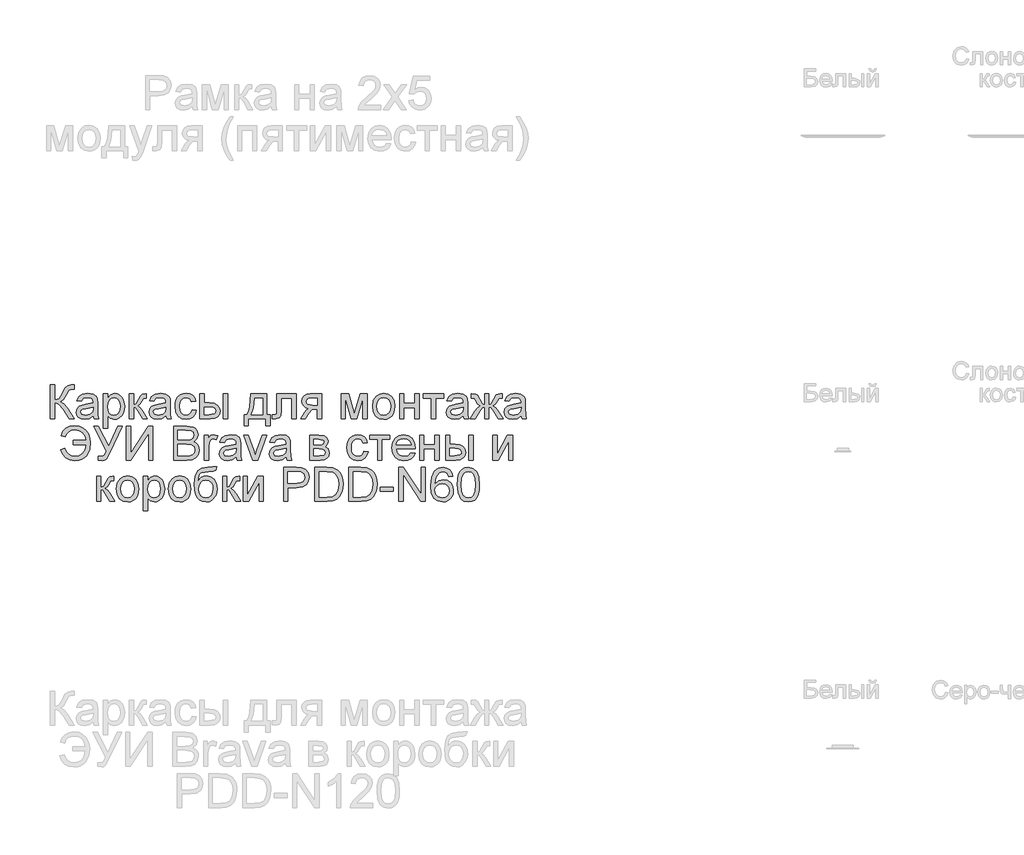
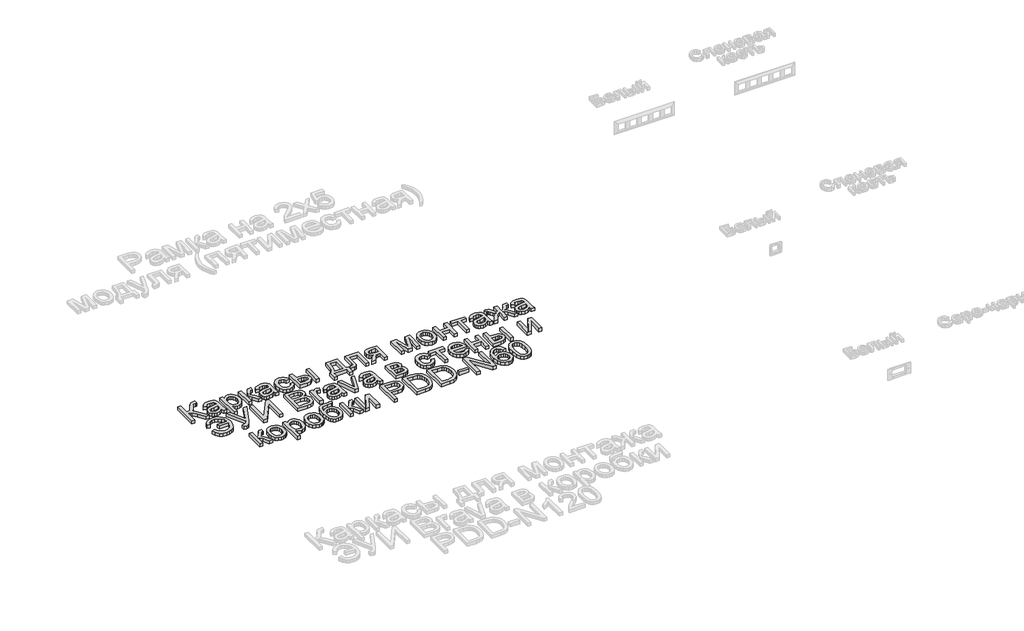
# One storey, part 16 of 47: 1 proxy.
"""IFC4 building model written with IfcOpenShell, lengths in millimetres."""

from ifc_helpers import new_model, si_unit, origin, origin_with_axes, place, context, project, spatial, polyline, outline, extrude, element, save

model = new_model("IFC4")

# Units and contexts
model_context = context("Model", 3, world=origin())
ifc_project = project(units=[si_unit("LENGTHUNIT", "METRE", prefix="MILLI")], contexts=[model_context])

# Site, building, storey
site = spatial("IfcSite", under=ifc_project)
building = spatial("IfcBuilding", under=site)
storey = spatial("IfcBuildingStorey", under=building, Name="Этаж 01", Elevation=0.0)

# Proxy
placement = place(None, origin())
element("IfcBuildingElementProxy", 1, Name="150 мм Arial", ObjectType="150 мм Arial", at=placement, inside=storey, context=model_context, shape_type="SweptSolid", body=[
    extrude(outline(polyline([(-3509.4486842, -3461.4665674), (-3490.613126, -3461.4665674), (-3490.613126, -3527.391021), (-3477.8614163, -3526.1448207), (-3469.5518818, -3522.4062199), (-3454.8549961, -3497.1879091), (-3444.4623297, -3476.1266649), (-3432.6901059, -3465.6972104), (-3415.8595046, -3461.4665674), (-3403.4986695, -3461.6872966), (-3403.4986695, -3480.5228548), (-3407.6557361, -3480.4124902), (-3411.8128026, -3480.3021256), (-3426.5280824, -3484.8270741), (-3437.7116951, -3504.2144553), (-3451.0474174, -3527.8324793), (-3464.0520459, -3535.6315776), (-3449.5115101, -3544.1480458), (-3435.1733093, -3561.8983521), (-3403.4986695, -3612.1510326), (-3425.3508601, -3612.1510326), (-3452.1326693, -3569.6974504), (-3470.9866216, -3547.5325602), (-3479.6916293, -3543.0214072), (-3490.613126, -3541.5176896), (-3490.613126, -3612.1510326), (-3509.4486842, -3612.1510326), (-3509.4486842, -3461.4665674)])), origin_with_axes(), (0.0, 0.0, 1.0), 20.0),
    extrude(outline(polyline([(-3318.7386579, -3598.024364), (-3337.0039989, -3610.7898693), (-3357.1823263, -3614.5054774), (-3372.9230772, -3612.2705943), (-3384.5343527, -3605.5659449), (-3391.694256, -3595.3848107), (-3394.0808905, -3582.720473), (-3390.4756469, -3567.8212522), (-3381.0026855, -3557.0055216), (-3367.814116, -3550.825104), (-3351.5169436, -3547.9924127), (-3318.8490225, -3541.5176896), (-3318.7386579, -3537.3238348), (-3320.0354419, -3528.9177312), (-3323.925794, -3523.4178954), (-3332.6262032, -3519.3344053), (-3344.7479149, -3517.9732419), (-3363.8042023, -3521.5968795), (-3372.8908875, -3534.4543553), (-3391.7264457, -3532.0999105), (-3383.5778595, -3513.7058107), (-3367.1703225, -3502.9268683), (-3342.3198937, -3499.1376837), (-3319.4928159, -3502.4854099), (-3306.598552, -3510.8915135), (-3300.8228047, -3523.6754128), (-3299.9030997, -3540.1565262), (-3299.9030997, -3563.5906093), (-3298.9466065, -3596.3137127), (-3295.1942102, -3612.1510326), (-3314.0297683, -3612.1510326), (-3318.7386579, -3598.024364)]), holes=[polyline([(-3318.7386579, -3560.3532477), (-3349.1257107, -3566.128995), (-3365.3309125, -3569.1824156), (-3372.6701583, -3574.1488225), (-3375.2453323, -3581.3960978), (-3369.6351319, -3591.5864291), (-3353.1724126, -3595.6699193), (-3334.1161253, -3591.1633648), (-3321.8288666, -3580.2556637), (-3318.8490225, -3565.6875366), (-3318.7386579, -3560.3532477)])]), origin_with_axes(), (0.0, 0.0, 1.0), 20.0),
    extrude(outline(polyline([(-3274.0042072, -3654.5310385), (-3274.0042072, -3501.4921285), (-3255.1686491, -3501.4921285), (-3255.1686491, -3519.9598046), (-3242.1456265, -3504.343214), (-3224.5608671, -3499.1376837), (-3211.822953, -3500.9586996), (-3200.6853256, -3506.4217472), (-3191.6170344, -3515.1957328), (-3185.087129, -3526.9495626), (-3179.8264165, -3555.975452), (-3181.31174, -3572.0840848), (-3185.7677107, -3586.4912635), (-3193.0517742, -3598.4658224), (-3203.0213763, -3607.2765962), (-3214.6326517, -3612.6982571), (-3226.8417355, -3614.5054774), (-3243.2308783, -3609.6678292), (-3255.1686491, -3597.4357528), (-3255.1686491, -3654.5310385), (-3274.0042072, -3654.5310385)]), holes=[polyline([(-3255.1686491, -3557.7044974), (-3253.1315025, -3574.5902809), (-3247.0200629, -3586.399293), (-3238.0023555, -3593.3522627), (-3227.2464057, -3595.6699193), (-3216.3157119, -3593.2694892), (-3207.0680782, -3586.0681992), (-3200.7635005, -3573.8269258), (-3198.6619746, -3556.3065458), (-3200.7129168, -3539.5127327), (-3206.8657431, -3527.5381737), (-3215.869655, -3520.3644748), (-3226.4738535, -3517.9732419), (-3237.1194387, -3520.5162262), (-3246.4682399, -3528.145179), (-3252.9935468, -3540.6209772), (-3255.1686491, -3557.7044974)])]), origin_with_axes(), (0.0, 0.0, 1.0), 20.0),
    extrude(outline(polyline([(-3158.6364136, -3501.4921285), (-3139.8008554, -3501.4921285), (-3139.8008554, -3548.5810239), (-3127.182503, -3545.1965095), (-3116.8450189, -3525.4780346), (-3108.2549743, -3508.4634923), (-3100.6766052, -3502.9268683), (-3086.8994245, -3501.4921285), (-3083.2941809, -3501.4921285), (-3083.2941809, -3520.4380512), (-3088.3709525, -3520.3276866), (-3097.5680024, -3522.3142494), (-3104.0427255, -3534.7118727), (-3111.6394887, -3548.1211714), (-3122.2896724, -3554.687865), (-3110.407084, -3562.0179137), (-3098.7452247, -3577.4597605), (-3078.5852914, -3612.1510326), (-3099.9960235, -3612.1510326), (-3119.7512867, -3578.1955245), (-3129.6841005, -3563.8297326), (-3139.8008554, -3560.3532477), (-3139.8008554, -3612.1510326), (-3158.6364136, -3612.1510326), (-3158.6364136, -3501.4921285)])), origin_with_axes(), (0.0, 0.0, 1.0), 20.0),
    extrude(outline(polyline([(-2996.1797245, -3598.024364), (-3014.4450655, -3610.7898693), (-3034.623393, -3614.5054774), (-3050.3641438, -3612.2705943), (-3061.9754193, -3605.5659449), (-3069.1353227, -3595.3848107), (-3071.5219571, -3582.720473), (-3067.9167135, -3567.8212522), (-3058.4437522, -3557.0055216), (-3045.2551826, -3550.825104), (-3028.9580103, -3547.9924127), (-2996.2900891, -3541.5176896), (-2996.1797245, -3537.3238348), (-2997.4765085, -3528.9177312), (-3001.3668606, -3523.4178954), (-3010.0672698, -3519.3344053), (-3022.1889815, -3517.9732419), (-3041.2452689, -3521.5968795), (-3050.3319542, -3534.4543553), (-3069.1675123, -3532.0999105), (-3061.0189261, -3513.7058107), (-3044.6113891, -3502.9268683), (-3019.7609604, -3499.1376837), (-2996.9338826, -3502.4854099), (-2984.0396186, -3510.8915135), (-2978.2638713, -3523.6754128), (-2977.3441663, -3540.1565262), (-2977.3441663, -3563.5906093), (-2976.3876731, -3596.3137127), (-2972.6352768, -3612.1510326), (-2991.4708349, -3612.1510326), (-2996.1797245, -3598.024364)]), holes=[polyline([(-2996.1797245, -3560.3532477), (-3026.5667773, -3566.128995), (-3042.7719792, -3569.1824156), (-3050.111225, -3574.1488225), (-3052.6863989, -3581.3960978), (-3047.0761985, -3591.5864291), (-3030.6134792, -3595.6699193), (-3011.5571919, -3591.1633648), (-2999.2699332, -3580.2556637), (-2996.2900891, -3565.6875366), (-2996.1797245, -3560.3532477)])]), origin_with_axes(), (0.0, 0.0, 1.0), 20.0),
    extrude(outline(polyline([(-2880.8119308, -3572.1254716), (-2861.9763726, -3574.4799163), (-2867.2278881, -3591.2323427), (-2877.0963226, -3603.8920818), (-2890.6527742, -3611.8521285), (-2906.9683407, -3614.5054774), (-2927.0041138, -3610.8036648), (-2942.6712883, -3599.6982271), (-2952.7834446, -3581.6766079), (-2956.1541634, -3557.2262508), (-2954.7148251, -3540.4646274), (-2950.3968102, -3525.9378871), (-2943.1311408, -3514.2070499), (-2932.848839, -3505.833136), (-2920.5477848, -3500.8115468), (-2907.225858, -3499.1376837), (-2891.3103632, -3501.4369462), (-2878.5862447, -3508.3347336), (-2869.4581727, -3519.463164), (-2864.3308174, -3534.4543553), (-2883.1663756, -3536.8088), (-2891.9035729, -3522.7005255), (-2907.0787053, -3517.9732419), (-2919.2510008, -3520.3000955), (-2928.9125017, -3527.2806564), (-2935.2170794, -3539.2920035), (-2937.3186053, -3556.711216), (-2935.2630646, -3574.3649532), (-2929.0964427, -3586.4176871), (-2919.6096857, -3593.3568612), (-2907.59374, -3595.6699193), (-2897.8402686, -3594.2259824), (-2889.8434338, -3589.8941719), (-2884.0262997, -3582.5641232), (-2880.8119308, -3572.1254716)])), origin_with_axes(), (0.0, 0.0, 1.0), 20.0),
    extrude(outline(polyline([(-2845.4952593, -3501.4921285), (-2826.6597011, -3501.4921285), (-2826.6597011, -3541.5176896), (-2803.3727708, -3541.5176896), (-2783.2450271, -3543.8767329), (-2768.3320108, -3550.9538627), (-2759.1027712, -3562.1788621), (-2756.026358, -3576.9815139), (-2758.6061305, -3590.4597905), (-2766.345448, -3601.8319427), (-2779.7501482, -3609.5712601), (-2799.3260689, -3612.1510326), (-2845.4952593, -3612.1510326), (-2845.4952593, -3501.4921285)]), holes=[polyline([(-2826.6597011, -3593.3154745), (-2807.3091082, -3593.3154745), (-2782.3299207, -3589.360743), (-2776.7289173, -3584.2977671), (-2774.8619162, -3577.0183021), (-2780.3985402, -3565.4300193), (-2789.2782919, -3561.6224406), (-2804.8442988, -3560.3532477), (-2826.6597011, -3560.3532477), (-2826.6597011, -3593.3154745)])]), origin_with_axes(), (0.0, 0.0, 1.0), 20.0),
    extrude(outline(polyline([(-2741.8996894, -3501.4921285), (-2723.0641313, -3501.4921285), (-2723.0641313, -3612.1510326), (-2741.8996894, -3612.1510326), (-2741.8996894, -3501.4921285)])), origin_with_axes(), (0.0, 0.0, 1.0), 20.0),
    extrude(outline(polyline([(-2619.4685614, -3501.4921285), (-2548.8352183, -3501.4921285), (-2548.8352183, -3593.3154745), (-2534.7085497, -3593.3154745), (-2534.7085497, -3642.7588146), (-2553.5441079, -3642.7588146), (-2553.5441079, -3612.1510326), (-2631.2407853, -3612.1510326), (-2631.2407853, -3642.7588146), (-2650.0763434, -3642.7588146), (-2650.0763434, -3593.3154745), (-2638.3041196, -3593.3154745), (-2629.7462647, -3577.8506351), (-2623.7543867, -3557.3917977), (-2619.4685614, -3501.4921285)]), holes=[polyline([(-2602.987448, -3520.3276866), (-2607.402032, -3563.2411214), (-2617.1141167, -3593.3154745), (-2567.6707765, -3593.3154745), (-2567.6707765, -3520.3276866), (-2602.987448, -3520.3276866)])]), origin_with_axes(), (0.0, 0.0, 1.0), 20.0),
    extrude(outline(polyline([(-2504.1007677, -3501.4921285), (-2419.340756, -3501.4921285), (-2419.340756, -3612.040668), (-2438.1763142, -3612.040668), (-2438.1763142, -3520.3276866), (-2485.2652096, -3520.3276866), (-2485.2652096, -3573.118753), (-2486.5344025, -3597.472541), (-2493.5057663, -3607.7548428), (-2509.9868797, -3612.1510326), (-2525.2907707, -3611.1945395), (-2525.2907707, -3593.3154745), (-2516.866273, -3593.3154745), (-2508.3498048, -3592.1566462), (-2504.9468963, -3588.4778263), (-2504.1007677, -3572.0518952), (-2504.1007677, -3501.4921285)])), origin_with_axes(), (0.0, 0.0, 1.0), 20.0),
    extrude(outline(polyline([(-2306.3274071, -3501.4921285), (-2306.3274071, -3612.1510326), (-2325.1629653, -3612.1510326), (-2325.1629653, -3569.7710268), (-2335.4268729, -3569.7710268), (-2349.4063888, -3572.1622598), (-2362.539776, -3588.238703), (-2377.5493614, -3612.1510326), (-2399.3279755, -3612.1510326), (-2380.418841, -3581.9111326), (-2372.0679197, -3571.0586138), (-2364.379186, -3566.2393596), (-2377.2550558, -3562.2938252), (-2386.3049529, -3554.7982296), (-2391.6576359, -3544.8286275), (-2393.4418636, -3533.4610739), (-2391.0046454, -3520.5668099), (-2383.6929907, -3510.3580846), (-2371.764417, -3503.7086175), (-2355.4764417, -3501.4921285), (-2306.3274071, -3501.4921285)]), holes=[polyline([(-2325.1629653, -3520.3276866), (-2349.995, -3520.3276866), (-2362.820286, -3521.4175371), (-2370.099751, -3524.6870883), (-2374.6063054, -3534.8958137), (-2372.9462379, -3542.0741111), (-2367.9660354, -3547.0543136), (-2344.4399818, -3550.9354686), (-2325.1629653, -3550.9354686), (-2325.1629653, -3520.3276866)])]), origin_with_axes(), (0.0, 0.0, 1.0), 20.0),
    extrude(outline(polyline([(-2219.2129507, -3501.4921285), (-2186.8025469, -3501.4921285), (-2161.8233594, -3590.0781129), (-2134.8943974, -3501.4921285), (-2103.845157, -3501.4921285), (-2103.845157, -3612.1510326), (-2122.6807151, -3612.1510326), (-2122.6807151, -3523.0500134), (-2149.75683, -3612.1510326), (-2174.4785001, -3612.1510326), (-2200.3773925, -3518.7825823), (-2200.3773925, -3612.1510326), (-2219.2129507, -3612.1510326), (-2219.2129507, -3501.4921285)])), origin_with_axes(), (0.0, 0.0, 1.0), 20.0),
    extrude(outline(polyline([(-2080.3007093, -3556.8215806), (-2076.2264162, -3530.1409389), (-2064.0035369, -3511.3881542), (-2048.901981, -3502.2003013), (-2030.8205809, -3499.1376837), (-2011.0331281, -3502.8670874), (-1995.2279979, -3514.0552986), (-1984.8675212, -3531.8194005), (-1981.414029, -3555.2764762), (-1982.9407393, -3574.3051724), (-1987.5208701, -3588.7905259), (-1995.0210643, -3599.6384463), (-2005.3079646, -3607.7548428), (-2017.5262453, -3612.8178188), (-2030.8205809, -3614.5054774), (-2050.8471571, -3610.7898693), (-2066.6338932, -3599.6430448), (-2076.8840053, -3581.5064624), (-2080.3007093, -3556.8215806)]), holes=[polyline([(-2061.4651511, -3556.7847924), (-2059.2854503, -3573.8315243), (-2052.7463479, -3585.9762287), (-2042.9055045, -3593.2464966), (-2030.8205809, -3595.6699193), (-2018.7908397, -3593.232701), (-2008.9683904, -3585.9210464), (-2002.429288, -3573.6153936), (-2000.2495871, -3556.1961812), (-2002.4430835, -3539.6460899), (-2009.0235727, -3527.6669324), (-2018.8598176, -3520.3966645), (-2030.8205809, -3517.9732419), (-2042.9055045, -3520.3874675), (-2052.7463479, -3527.6301442), (-2059.2854503, -3539.7472575), (-2061.4651511, -3556.7847924)])]), origin_with_axes(), (0.0, 0.0, 1.0), 20.0),
    extrude(outline(polyline([(-1960.2240261, -3501.4921285), (-1941.3884679, -3501.4921285), (-1941.3884679, -3543.8721343), (-1891.9451278, -3543.8721343), (-1891.9451278, -3501.4921285), (-1873.1095696, -3501.4921285), (-1873.1095696, -3612.1510326), (-1891.9451278, -3612.1510326), (-1891.9451278, -3562.7076925), (-1941.3884679, -3562.7076925), (-1941.3884679, -3612.1510326), (-1960.2240261, -3612.1510326), (-1960.2240261, -3501.4921285)])), origin_with_axes(), (0.0, 0.0, 1.0), 20.0),
    extrude(outline(polyline([(-1854.2740115, -3501.4921285), (-1764.8051102, -3501.4921285), (-1764.8051102, -3520.3276866), (-1800.1217818, -3520.3276866), (-1800.1217818, -3612.1510326), (-1818.9573399, -3612.1510326), (-1818.9573399, -3520.3276866), (-1854.2740115, -3520.3276866), (-1854.2740115, -3501.4921285)])), origin_with_axes(), (0.0, 0.0, 1.0), 20.0),
    extrude(outline(polyline([(-1677.6906538, -3598.024364), (-1695.9559948, -3610.7898693), (-1716.1343223, -3614.5054774), (-1731.8750731, -3612.2705943), (-1743.4863486, -3605.5659449), (-1750.6462519, -3595.3848107), (-1753.0328864, -3582.720473), (-1749.4276428, -3567.8212522), (-1739.9546815, -3557.0055216), (-1726.7661119, -3550.825104), (-1710.4689395, -3547.9924127), (-1677.8010184, -3541.5176896), (-1677.6906538, -3537.3238348), (-1678.9874378, -3528.9177312), (-1682.8777899, -3523.4178954), (-1691.5781991, -3519.3344053), (-1703.6999108, -3517.9732419), (-1722.7561982, -3521.5968795), (-1731.8428835, -3534.4543553), (-1750.6784416, -3532.0999105), (-1742.5298554, -3513.7058107), (-1726.1223184, -3502.9268683), (-1701.2718897, -3499.1376837), (-1678.4448119, -3502.4854099), (-1665.5505479, -3510.8915135), (-1659.7748006, -3523.6754128), (-1658.8550956, -3540.1565262), (-1658.8550956, -3563.5906093), (-1657.8986024, -3596.3137127), (-1654.1462061, -3612.1510326), (-1672.9817642, -3612.1510326), (-1677.6906538, -3598.024364)]), holes=[polyline([(-1677.6906538, -3560.3532477), (-1708.0777066, -3566.128995), (-1724.2829085, -3569.1824156), (-1731.6221543, -3574.1488225), (-1734.1973282, -3581.3960978), (-1728.5871278, -3591.5864291), (-1712.1244085, -3595.6699193), (-1693.0681212, -3591.1633648), (-1680.7808625, -3580.2556637), (-1677.8010184, -3565.6875366), (-1677.6906538, -3560.3532477)])]), origin_with_axes(), (0.0, 0.0, 1.0), 20.0),
    extrude(outline(polyline([(-1564.6773048, -3501.4921285), (-1564.6773048, -3548.5810239), (-1553.6960273, -3544.6998688), (-1543.3033609, -3524.5583296), (-1530.9057377, -3505.2445248), (-1513.2841901, -3501.4921285), (-1505.8161856, -3501.4921285), (-1505.8161856, -3520.4380512), (-1511.0033218, -3520.3276866), (-1520.7154064, -3522.2774612), (-1527.4476469, -3534.4911435), (-1535.2651393, -3547.8820481), (-1546.4303579, -3554.687865), (-1534.1155081, -3562.0179137), (-1522.113358, -3577.4597605), (-1501.1072961, -3612.1510326), (-1522.7019692, -3612.1510326), (-1543.3769373, -3577.9380071), (-1553.9167565, -3563.719368), (-1564.6773048, -3560.3532477), (-1564.6773048, -3612.1510326), (-1583.512863, -3612.1510326), (-1583.512863, -3560.3532477), (-1594.2366232, -3563.6457916), (-1604.8500187, -3577.8644307), (-1625.5249869, -3612.1510326), (-1647.0828718, -3612.1510326), (-1626.1503862, -3577.4597605), (-1614.0562657, -3562.0179137), (-1601.6862336, -3554.687865), (-1613.5320338, -3547.1830723), (-1623.6855769, -3527.8692675), (-1628.6519838, -3521.504909), (-1636.7821759, -3520.217322), (-1642.3739822, -3520.3276866), (-1642.3739822, -3501.4921285), (-1639.5412909, -3501.4921285), (-1623.0233893, -3502.6693509), (-1614.4517388, -3507.672546), (-1604.8500187, -3524.5583296), (-1594.567717, -3544.5711101), (-1583.512863, -3548.5810239), (-1583.512863, -3501.4921285), (-1564.6773048, -3501.4921285)])), origin_with_axes(), (0.0, 0.0, 1.0), 20.0),
    extrude(outline(polyline([(-1421.0561739, -3598.024364), (-1439.321515, -3610.7898693), (-1459.4998424, -3614.5054774), (-1475.2405933, -3612.2705943), (-1486.8518688, -3605.5659449), (-1494.0117721, -3595.3848107), (-1496.3984065, -3582.720473), (-1492.793163, -3567.8212522), (-1483.3202016, -3557.0055216), (-1470.1316321, -3550.825104), (-1453.8344597, -3547.9924127), (-1421.1665385, -3541.5176896), (-1421.0561739, -3537.3238348), (-1422.352958, -3528.9177312), (-1426.2433101, -3523.4178954), (-1434.9437193, -3519.3344053), (-1447.065431, -3517.9732419), (-1466.1217183, -3521.5968795), (-1475.2084036, -3534.4543553), (-1494.0439618, -3532.0999105), (-1485.8953756, -3513.7058107), (-1469.4878386, -3502.9268683), (-1444.6374098, -3499.1376837), (-1421.810332, -3502.4854099), (-1408.9160681, -3510.8915135), (-1403.1403208, -3523.6754128), (-1402.2206158, -3540.1565262), (-1402.2206158, -3563.5906093), (-1401.2641226, -3596.3137127), (-1397.5117262, -3612.1510326), (-1416.3472844, -3612.1510326), (-1421.0561739, -3598.024364)]), holes=[polyline([(-1421.0561739, -3560.3532477), (-1451.4432267, -3566.128995), (-1467.6484286, -3569.1824156), (-1474.9876744, -3574.1488225), (-1477.5628484, -3581.3960978), (-1471.952648, -3591.5864291), (-1455.4899287, -3595.6699193), (-1436.4336413, -3591.1633648), (-1424.1463827, -3580.2556637), (-1421.1665385, -3565.6875366), (-1421.0561739, -3560.3532477)])]), origin_with_axes(), (0.0, 0.0, 1.0), 20.0),
    extrude(outline(polyline([(-3407.0303367, -3707.998803), (-3350.5236622, -3707.998803), (-3354.6715317, -3688.5700351), (-3364.6135427, -3673.6202305), (-3379.8990396, -3664.0874883), (-3400.077367, -3660.9099076), (-3415.2869882, -3662.8228939), (-3427.4018022, -3668.5618531), (-3436.4218088, -3678.1267849), (-3442.3470082, -3691.5176896), (-3461.1825664, -3686.8088), (-3453.1259507, -3668.0652124), (-3439.9925635, -3653.9201497), (-3422.4170011, -3645.0357995), (-3401.0338602, -3642.0743494), (-3380.4968478, -3644.7920777), (-3363.0316501, -3652.9452624), (-3349.1579003, -3665.3244915), (-3339.3952319, -3680.720353), (-3333.614886, -3698.521243), (-3331.6881041, -3718.1155578), (-3335.173786, -3749.0038498), (-3347.9117001, -3774.56705), (-3357.7318501, -3784.5860862), (-3369.8282699, -3791.7425406), (-3384.2009596, -3796.0364133), (-3400.8499192, -3797.4677042), (-3423.3918884, -3794.3774954), (-3441.3537268, -3785.1068691), (-3454.7354344, -3769.6558253), (-3463.5370112, -3748.024364), (-3444.701453, -3743.3154745), (-3438.3370945, -3758.7665183), (-3428.5514334, -3769.8029781), (-3415.3444698, -3776.4248541), (-3398.7162036, -3778.632146), (-3379.9358278, -3775.1648582), (-3364.87106, -3764.7629948), (-3354.6807288, -3748.3462608), (-3350.5236622, -3726.8343611), (-3407.0303367, -3726.8343611), (-3407.0303367, -3707.998803)])), origin_with_axes(), (0.0, 0.0, 1.0), 20.0),
    extrude(outline(polyline([(-3316.3842131, -3644.4287942), (-3295.525304, -3644.4287942), (-3250.4597595, -3733.6769662), (-3209.9191637, -3644.4287942), (-3189.2441956, -3644.4287942), (-3246.4498458, -3761.8199388), (-3262.0112542, -3790.6618873), (-3269.3964852, -3795.7662499), (-3279.4120726, -3797.4677042), (-3296.3714325, -3795.1132594), (-3296.3714325, -3778.632146), (-3281.5457881, -3778.632146), (-3270.5461165, -3774.4382913), (-3260.3557852, -3755.3452157), (-3316.3842131, -3644.4287942)])), origin_with_axes(), (0.0, 0.0, 1.0), 20.0),
    extrude(outline(polyline([(-3171.5858598, -3644.4287942), (-3152.7503016, -3644.4287942), (-3152.7503016, -3763.7697134), (-3073.8764019, -3644.4287942), (-3053.8636213, -3644.4287942), (-3053.8636213, -3795.1132594), (-3072.6991795, -3795.1132594), (-3072.6991795, -3676.103434), (-3151.3891382, -3795.1132594), (-3171.5858598, -3795.1132594), (-3171.5858598, -3644.4287942)])), origin_with_axes(), (0.0, 0.0, 1.0), 20.0),
    extrude(outline(polyline([(-2962.0402753, -3795.1132594), (-2962.0402753, -3644.4287942), (-2904.5403195, -3644.4287942), (-2876.3789528, -3648.8617722), (-2866.9151884, -3654.4857682), (-2859.7506866, -3662.4918001), (-2853.7358159, -3681.7688167), (-2858.7941934, -3699.3719702), (-2874.0796903, -3712.7076925), (-2863.4065139, -3718.2811047), (-2855.5200436, -3726.7607847), (-2850.6502057, -3737.5857124), (-2849.0269264, -3750.1948678), (-2853.4599045, -3770.4467716), (-2864.441182, -3784.8677458), (-2880.8303249, -3792.5196913), (-2904.9817779, -3795.1132594), (-2962.0402753, -3795.1132594)]), holes=[polyline([(-2943.2047172, -3705.6443582), (-2908.8077506, -3705.6443582), (-2888.7213937, -3704.0256774), (-2876.6364701, -3697.0543136), (-2872.5713741, -3684.7854491), (-2876.3605587, -3672.4981904), (-2887.2130775, -3665.232521), (-2911.4197128, -3663.2643523), (-2943.2047172, -3663.2643523), (-2943.2047172, -3705.6443582)]), polyline([(-2943.2047172, -3776.2777013), (-2904.5771077, -3776.2777013), (-2890.5975919, -3775.5419373), (-2878.7701857, -3771.440053), (-2870.9342992, -3763.0707376), (-2867.8624846, -3750.3788088), (-2871.4677281, -3735.7371054), (-2883.1479815, -3726.999908), (-2906.4165177, -3724.4799163), (-2943.2047172, -3724.4799163), (-2943.2047172, -3776.2777013)])]), origin_with_axes(), (0.0, 0.0, 1.0), 20.0),
    extrude(outline(polyline([(-2825.4824787, -3795.1132594), (-2825.4824787, -3684.4543553), (-2809.0013653, -3684.4543553), (-2809.0013653, -3700.825104), (-2797.3027179, -3685.7419422), (-2785.530494, -3682.0999105), (-2766.6213595, -3687.912446), (-2772.9121416, -3704.7982296), (-2786.1558934, -3700.9354686), (-2796.8060772, -3704.6510768), (-2803.5935, -3714.9517727), (-2806.6469206, -3736.951116), (-2806.6469206, -3795.1132594), (-2825.4824787, -3795.1132594)])), origin_with_axes(), (0.0, 0.0, 1.0), 20.0),
    extrude(outline(polyline([(-2684.2157926, -3780.9865908), (-2702.4811336, -3793.752096), (-2722.6594611, -3797.4677042), (-2738.4002119, -3795.2328211), (-2750.0114874, -3788.5281717), (-2757.1713907, -3778.3470375), (-2759.5580252, -3765.6826998), (-2755.9527816, -3750.783479), (-2746.4798203, -3739.9677483), (-2733.2912507, -3733.7873308), (-2716.9940783, -3730.9546394), (-2684.3261572, -3724.4799163), (-2684.2157926, -3720.2860616), (-2685.5125766, -3711.879958), (-2689.4029287, -3706.3801222), (-2698.1033379, -3702.296632), (-2710.2250496, -3700.9354686), (-2729.281337, -3704.5591063), (-2738.3680223, -3717.416582), (-2757.2035804, -3715.0621373), (-2749.0549942, -3696.6680375), (-2732.6474572, -3685.889095), (-2707.7970285, -3682.0999105), (-2684.9699507, -3685.4476366), (-2672.0756867, -3693.8537402), (-2666.2999394, -3706.6376396), (-2665.3802344, -3723.118753), (-2665.3802344, -3746.552836), (-2664.4237412, -3779.2759395), (-2660.6713449, -3795.1132594), (-2679.506903, -3795.1132594), (-2684.2157926, -3780.9865908)]), holes=[polyline([(-2684.2157926, -3743.3154745), (-2714.6028454, -3749.0912218), (-2730.8080473, -3752.1446424), (-2738.1472931, -3757.1110493), (-2740.722467, -3764.3583246), (-2735.1122666, -3774.5486559), (-2718.6495473, -3778.632146), (-2699.59326, -3774.1255916), (-2687.3060013, -3763.2178904), (-2684.3261572, -3748.6497634), (-2684.2157926, -3743.3154745)])]), origin_with_axes(), (0.0, 0.0, 1.0), 20.0),
    extrude(outline(polyline([(-2612.3316507, -3795.1132594), (-2651.2535658, -3684.4543553), (-2631.3143617, -3684.4543553), (-2607.7331258, -3750.7466908), (-2600.6330033, -3773.0403397), (-2593.6800336, -3751.9974896), (-2569.9516449, -3684.4543553), (-2550.0124407, -3684.4543553), (-2588.4561092, -3795.1132594), (-2612.3316507, -3795.1132594)])), origin_with_axes(), (0.0, 0.0, 1.0), 20.0),
    extrude(outline(polyline([(-2462.8979843, -3780.9865908), (-2481.1633253, -3793.752096), (-2501.3416528, -3797.4677042), (-2517.0824036, -3795.2328211), (-2528.6936791, -3788.5281717), (-2535.8535824, -3778.3470375), (-2538.2402169, -3765.6826998), (-2534.6349733, -3750.783479), (-2525.162012, -3739.9677483), (-2511.9734424, -3733.7873308), (-2495.67627, -3730.9546394), (-2463.0083489, -3724.4799163), (-2462.8979843, -3720.2860616), (-2464.1947683, -3711.879958), (-2468.0851204, -3706.3801222), (-2476.7855296, -3702.296632), (-2488.9072413, -3700.9354686), (-2507.9635287, -3704.5591063), (-2517.050214, -3717.416582), (-2535.8857721, -3715.0621373), (-2527.7371859, -3696.6680375), (-2511.3296489, -3685.889095), (-2486.4792202, -3682.0999105), (-2463.6521424, -3685.4476366), (-2450.7578784, -3693.8537402), (-2444.9821311, -3706.6376396), (-2444.0624261, -3723.118753), (-2444.0624261, -3746.552836), (-2443.1059329, -3779.2759395), (-2439.3535366, -3795.1132594), (-2458.1890947, -3795.1132594), (-2462.8979843, -3780.9865908)]), holes=[polyline([(-2462.8979843, -3743.3154745), (-2493.2850371, -3749.0912218), (-2509.490239, -3752.1446424), (-2516.8294848, -3757.1110493), (-2519.4046587, -3764.3583246), (-2513.7944583, -3774.5486559), (-2497.331739, -3778.632146), (-2478.2754517, -3774.1255916), (-2465.988193, -3763.2178904), (-2463.0083489, -3748.6497634), (-2462.8979843, -3743.3154745)])]), origin_with_axes(), (0.0, 0.0, 1.0), 20.0),
    extrude(outline(polyline([(-2359.3024144, -3684.4543553), (-2317.8053254, -3684.4543553), (-2295.051824, -3686.9743469), (-2282.2495305, -3696.208185), (-2276.8968475, -3712.3030223), (-2280.1342091, -3725.3812272), (-2289.8830819, -3734.7070358), (-2277.2279413, -3744.9157612), (-2272.187958, -3762.6660674), (-2275.3793343, -3777.0226623), (-2282.9669004, -3787.1302201), (-2294.9782476, -3793.1174996), (-2311.4409669, -3795.1132594), (-2359.3024144, -3795.1132594), (-2359.3024144, -3684.4543553)]), holes=[polyline([(-2340.4668563, -3726.8343611), (-2321.8520273, -3726.8343611), (-2306.492954, -3725.8778679), (-2299.0249495, -3722.0518952), (-2295.7324057, -3715.1357137), (-2297.1763425, -3709.5163162), (-2301.508153, -3705.9018756), (-2321.2634161, -3703.2899134), (-2340.4668563, -3703.2899134), (-2340.4668563, -3726.8343611)]), polyline([(-2340.4668563, -3776.2777013), (-2317.363867, -3776.2777013), (-2296.8728399, -3772.8747928), (-2292.6329999, -3768.2348811), (-2291.0235161, -3761.1209631), (-2294.2424836, -3752.0526719), (-2302.6301931, -3746.7735652), (-2319.203277, -3745.6699193), (-2340.4668563, -3745.6699193), (-2340.4668563, -3776.2777013)])]), origin_with_axes(), (0.0, 0.0, 1.0), 20.0),
    extrude(outline(polyline([(-2119.149048, -3755.0876983), (-2100.3134898, -3757.4421431), (-2105.5650053, -3774.1945695), (-2115.4334398, -3786.8543086), (-2128.9898914, -3794.8143553), (-2145.3054578, -3797.4677042), (-2165.341231, -3793.7658916), (-2181.0084055, -3782.6604539), (-2191.1205618, -3764.6388346), (-2194.4912806, -3740.1884775), (-2193.0519423, -3723.4268541), (-2188.7339274, -3708.9001138), (-2181.468258, -3697.1692767), (-2171.1859562, -3688.7953628), (-2158.884902, -3683.7737736), (-2145.5629752, -3682.0999105), (-2129.6474804, -3684.399173), (-2116.9233619, -3691.2969604), (-2107.7952899, -3702.4253907), (-2102.6679346, -3717.416582), (-2121.5034927, -3719.7710268), (-2130.2406901, -3705.6627523), (-2145.4158224, -3700.9354686), (-2157.588118, -3703.2623223), (-2167.2496188, -3710.2428831), (-2173.5541965, -3722.2542303), (-2175.6557224, -3739.6734427), (-2173.6001818, -3757.32718), (-2167.4335598, -3769.3799138), (-2157.9468029, -3776.319088), (-2145.9308572, -3778.632146), (-2136.1773858, -3777.1882092), (-2128.180551, -3772.8563987), (-2122.3634169, -3765.5263499), (-2119.149048, -3755.0876983)])), origin_with_axes(), (0.0, 0.0, 1.0), 20.0),
    extrude(outline(polyline([(-2093.2501555, -3684.4543553), (-2003.7812543, -3684.4543553), (-2003.7812543, -3703.2899134), (-2039.0979258, -3703.2899134), (-2039.0979258, -3795.1132594), (-2057.933484, -3795.1132594), (-2057.933484, -3703.2899134), (-2093.2501555, -3703.2899134), (-2093.2501555, -3684.4543553)])), origin_with_axes(), (0.0, 0.0, 1.0), 20.0),
    extrude(outline(polyline([(-1909.8241927, -3762.1510326), (-1891.3565166, -3764.5054774), (-1898.0105822, -3778.4206139), (-1908.6285762, -3788.8224773), (-1922.9713755, -3795.3063975), (-1940.7998567, -3797.4677042), (-1962.9003676, -3793.7383005), (-1979.9057128, -3782.5500893), (-1990.7490346, -3764.6296376), (-1994.3634752, -3740.7035123), (-1990.7122464, -3715.9726452), (-1979.75856, -3697.4773779), (-1962.983141, -3685.9442773), (-1941.8667145, -3682.0999105), (-1921.407877, -3685.9350803), (-1905.0601209, -3697.4405897), (-1894.3409593, -3715.8990688), (-1890.7679054, -3740.5931477), (-1890.87827, -3745.6699193), (-1975.5279171, -3745.6699193), (-1972.2675629, -3759.7689967), (-1964.6937923, -3770.1340719), (-1953.7630985, -3776.5076275), (-1940.4319747, -3778.632146), (-1921.9642986, -3774.6958087), (-1909.8241927, -3762.1510326)]), holes=[polyline([(-1975.5279171, -3726.8343611), (-1909.6034635, -3726.8343611), (-1912.1510463, -3716.8831531), (-1917.1450444, -3709.7646365), (-1928.126322, -3703.1427606), (-1941.9402909, -3700.9354686), (-1954.6368183, -3702.6967037), (-1965.1352507, -3707.9804089), (-1972.4331098, -3716.216367), (-1975.5279171, -3726.8343611)])]), origin_with_axes(), (0.0, 0.0, 1.0), 20.0),
    extrude(outline(polyline([(-1871.9323472, -3684.4543553), (-1853.0967891, -3684.4543553), (-1853.0967891, -3726.8343611), (-1803.6534489, -3726.8343611), (-1803.6534489, -3684.4543553), (-1784.8178908, -3684.4543553), (-1784.8178908, -3795.1132594), (-1803.6534489, -3795.1132594), (-1803.6534489, -3745.6699193), (-1853.0967891, -3745.6699193), (-1853.0967891, -3795.1132594), (-1871.9323472, -3795.1132594), (-1871.9323472, -3684.4543553)])), origin_with_axes(), (0.0, 0.0, 1.0), 20.0),
    extrude(outline(polyline([(-1652.9689837, -3684.4543553), (-1634.1334255, -3684.4543553), (-1634.1334255, -3795.1132594), (-1652.9689837, -3795.1132594), (-1652.9689837, -3684.4543553)])), origin_with_axes(), (0.0, 0.0, 1.0), 20.0),
    extrude(outline(polyline([(-1756.5645535, -3684.4543553), (-1737.7289954, -3684.4543553), (-1737.7289954, -3724.4799163), (-1714.4420651, -3724.4799163), (-1694.3143214, -3726.8389596), (-1679.401305, -3733.9160895), (-1670.1720655, -3745.1410889), (-1667.0956523, -3759.9437407), (-1669.6754248, -3773.4220173), (-1677.4147423, -3784.7941694), (-1690.8194425, -3792.5334869), (-1710.3953631, -3795.1132594), (-1756.5645535, -3795.1132594), (-1756.5645535, -3684.4543553)]), holes=[polyline([(-1737.7289954, -3776.2777013), (-1718.3784024, -3776.2777013), (-1693.399215, -3772.3229698), (-1687.7982116, -3767.2599938), (-1685.9312105, -3759.9805289), (-1691.4678345, -3748.392246), (-1700.3475861, -3744.5846674), (-1715.9135931, -3743.3154745), (-1737.7289954, -3743.3154745), (-1737.7289954, -3776.2777013)])]), origin_with_axes(), (0.0, 0.0, 1.0), 20.0),
    extrude(outline(polyline([(-1547.0189691, -3684.4543553), (-1528.1834109, -3684.4543553), (-1528.1834109, -3768.846485), (-1481.9038559, -3684.4543553), (-1457.5500679, -3684.4543553), (-1457.5500679, -3795.1132594), (-1476.385626, -3795.1132594), (-1476.385626, -3711.2361645), (-1522.3708754, -3795.1132594), (-1547.0189691, -3795.1132594), (-1547.0189691, -3684.4543553)])), origin_with_axes(), (0.0, 0.0, 1.0), 20.0),
    extrude(outline(polyline([(-3303.4347669, -3867.416582), (-3284.5992087, -3867.416582), (-3284.5992087, -3914.5054774), (-3271.9808563, -3911.1209631), (-3261.6433722, -3891.4024881), (-3253.0533276, -3874.3879458), (-3245.4749585, -3868.8513218), (-3231.6977778, -3867.416582), (-3228.0925342, -3867.416582), (-3228.0925342, -3886.3625048), (-3233.1693058, -3886.2521402), (-3242.3663557, -3888.238703), (-3248.8410788, -3900.6363262), (-3256.437842, -3914.0456249), (-3267.0880257, -3920.6123185), (-3255.2054373, -3927.9423673), (-3243.543578, -3943.384214), (-3223.3836447, -3978.0754862), (-3244.7943768, -3978.0754862), (-3264.54964, -3944.119978), (-3274.4824538, -3929.7541861), (-3284.5992087, -3926.2777013), (-3284.5992087, -3978.0754862), (-3303.4347669, -3978.0754862), (-3303.4347669, -3867.416582)])), origin_with_axes(), (0.0, 0.0, 1.0), 20.0),
    extrude(outline(polyline([(-3216.3203104, -3922.7460341), (-3212.2460173, -3896.0653924), (-3200.023138, -3877.3126077), (-3184.9215821, -3868.1247549), (-3166.840182, -3865.0621373), (-3147.0527292, -3868.791541), (-3131.247599, -3879.9797522), (-3120.8871223, -3897.743854), (-3117.4336301, -3921.2009297), (-3118.9603404, -3940.2296259), (-3123.5404712, -3954.7149795), (-3131.0406654, -3965.5628998), (-3141.3275657, -3973.6792963), (-3153.5458464, -3978.7422723), (-3166.840182, -3980.4299309), (-3186.8667582, -3976.7143228), (-3202.6534943, -3965.5674983), (-3212.9036064, -3947.430916), (-3216.3203104, -3922.7460341)]), holes=[polyline([(-3197.4847522, -3922.7092459), (-3195.3050514, -3939.7559779), (-3188.765949, -3951.9006822), (-3178.9251056, -3959.1709501), (-3166.840182, -3961.5943728), (-3154.8104408, -3959.1571546), (-3144.9879915, -3951.8454999), (-3138.4488891, -3939.5398472), (-3136.2691882, -3922.1206347), (-3138.4626846, -3905.5705435), (-3145.0431738, -3893.591386), (-3154.8794187, -3886.3211181), (-3166.840182, -3883.8976954), (-3178.9251056, -3886.311921), (-3188.765949, -3893.5545978), (-3195.3050514, -3905.671711), (-3197.4847522, -3922.7092459)])]), origin_with_axes(), (0.0, 0.0, 1.0), 20.0),
    extrude(outline(polyline([(-3096.2436272, -4020.455492), (-3096.2436272, -3867.416582), (-3077.408069, -3867.416582), (-3077.408069, -3885.8842582), (-3064.3850464, -3870.2676675), (-3046.800287, -3865.0621373), (-3034.0623729, -3866.8831531), (-3022.9247455, -3872.3462008), (-3013.8564544, -3881.1201863), (-3007.3265489, -3892.8740161), (-3002.0658364, -3921.8999055), (-3003.55116, -3938.0085384), (-3008.0071306, -3952.415717), (-3015.2911941, -3964.390276), (-3025.2607962, -3973.2010497), (-3036.8720717, -3978.6227106), (-3049.0811554, -3980.4299309), (-3065.4702983, -3975.5922827), (-3077.408069, -3963.3602064), (-3077.408069, -4020.455492), (-3096.2436272, -4020.455492)]), holes=[polyline([(-3077.408069, -3923.6289509), (-3075.3709225, -3940.5147345), (-3069.2594828, -3952.3237465), (-3060.2417754, -3959.2767162), (-3049.4858256, -3961.5943728), (-3038.5551318, -3959.1939428), (-3029.3074981, -3951.9926527), (-3023.0029205, -3939.7513793), (-3020.9013946, -3922.2309993), (-3022.9523367, -3905.4371862), (-3029.1051631, -3893.4626273), (-3038.1090749, -3886.2889284), (-3048.7132734, -3883.8976954), (-3059.3588586, -3886.4406797), (-3068.7076598, -3894.0696326), (-3075.2329667, -3906.5454307), (-3077.408069, -3923.6289509)])]), origin_with_axes(), (0.0, 0.0, 1.0), 20.0),
    extrude(outline(polyline([(-2985.584723, -3922.7460341), (-2981.5104299, -3896.0653924), (-2969.2875506, -3877.3126077), (-2954.1859947, -3868.1247549), (-2936.1045947, -3865.0621373), (-2916.3171419, -3868.791541), (-2900.5120116, -3879.9797522), (-2890.1515349, -3897.743854), (-2886.6980427, -3921.2009297), (-2888.224753, -3940.2296259), (-2892.8048838, -3954.7149795), (-2900.305078, -3965.5628998), (-2910.5919783, -3973.6792963), (-2922.8102591, -3978.7422723), (-2936.1045947, -3980.4299309), (-2956.1311708, -3976.7143228), (-2971.9179069, -3965.5674983), (-2982.168019, -3947.430916), (-2985.584723, -3922.7460341)]), holes=[polyline([(-2966.7491649, -3922.7092459), (-2964.569464, -3939.7559779), (-2958.0303616, -3951.9006822), (-2948.1895182, -3959.1709501), (-2936.1045947, -3961.5943728), (-2924.0748534, -3959.1571546), (-2914.2524042, -3951.8454999), (-2907.7133017, -3939.5398472), (-2905.5336009, -3922.1206347), (-2907.7270973, -3905.5705435), (-2914.3075865, -3893.591386), (-2924.1438313, -3886.3211181), (-2936.1045947, -3883.8976954), (-2948.1895182, -3886.311921), (-2958.0303616, -3893.5545978), (-2964.569464, -3905.671711), (-2966.7491649, -3922.7092459)])]), origin_with_axes(), (0.0, 0.0, 1.0), 20.0),
    extrude(outline(polyline([(-2787.8113624, -3825.0365762), (-2771.330249, -3825.0365762), (-2776.1862914, -3839.7334619), (-2785.7880114, -3845.0493567), (-2808.8542125, -3846.2265791), (-2839.921847, -3850.5675866), (-2847.0495607, -3856.2145753), (-2851.8412237, -3864.4735261), (-2855.8695315, -3889.0848315), (-2839.553965, -3871.0586138), (-2829.6349467, -3866.5612564), (-2818.529509, -3865.0621373), (-2798.9305957, -3868.8743144), (-2783.0288965, -3880.310846), (-2772.4890773, -3898.2496917), (-2768.9758043, -3921.5688117), (-2770.7186452, -3939.5490442), (-2775.9471681, -3953.9792155), (-2792.4834638, -3973.5321435), (-2803.777441, -3978.7054841), (-2818.529509, -3980.4299309), (-2835.5302557, -3978.2088434), (-2848.2727683, -3971.5455808), (-2857.6491607, -3961.4196288), (-2864.5515466, -3948.8104735), (-2868.8005837, -3929.823164), (-2870.2169293, -3900.5627498), (-2866.6438755, -3864.4229423), (-2855.9247138, -3842.3822123), (-2837.79273, -3831.1388188), (-2811.9812095, -3827.391021), (-2791.0119358, -3826.9679567), (-2787.8113624, -3825.0365762)]), holes=[polyline([(-2787.8113624, -3920.9802005), (-2789.8531075, -3906.1591546), (-2795.9783427, -3894.2903618), (-2805.8191861, -3886.495862), (-2819.0077556, -3883.8976954), (-2832.7573452, -3886.6430148), (-2842.9568735, -3894.878973), (-2849.2752468, -3907.704259), (-2851.3813712, -3924.2175621), (-2849.0545176, -3940.2250274), (-2842.0739567, -3951.9742586), (-2831.6812903, -3959.1893442), (-2819.1181202, -3961.5943728), (-2806.4905707, -3958.8122652), (-2796.4933775, -3950.4659424), (-2789.9818662, -3937.5302918), (-2787.8113624, -3920.9802005)])]), origin_with_axes(), (0.0, 0.0, 1.0), 20.0),
    extrude(outline(polyline([(-2745.4313566, -3867.416582), (-2726.5957984, -3867.416582), (-2726.5957984, -3914.5054774), (-2713.977446, -3911.1209631), (-2703.6399619, -3891.4024881), (-2695.0499173, -3874.3879458), (-2687.4715482, -3868.8513218), (-2673.6943675, -3867.416582), (-2670.089124, -3867.416582), (-2670.089124, -3886.3625048), (-2675.1658955, -3886.2521402), (-2684.3629454, -3888.238703), (-2690.8376685, -3900.6363262), (-2698.4344317, -3914.0456249), (-2709.0846154, -3920.6123185), (-2697.202027, -3927.9423673), (-2685.5401678, -3943.384214), (-2665.3802344, -3978.0754862), (-2686.7909665, -3978.0754862), (-2706.5462297, -3944.119978), (-2716.4790435, -3929.7541861), (-2726.5957984, -3926.2777013), (-2726.5957984, -3978.0754862), (-2745.4313566, -3978.0754862), (-2745.4313566, -3867.416582)])), origin_with_axes(), (0.0, 0.0, 1.0), 20.0),
    extrude(outline(polyline([(-2653.6080106, -3867.416582), (-2634.7724524, -3867.416582), (-2634.7724524, -3951.8087117), (-2588.4928974, -3867.416582), (-2564.1391093, -3867.416582), (-2564.1391093, -3978.0754862), (-2582.9746675, -3978.0754862), (-2582.9746675, -3894.1983913), (-2628.9599169, -3978.0754862), (-2653.6080106, -3978.0754862), (-2653.6080106, -3867.416582)])), origin_with_axes(), (0.0, 0.0, 1.0), 20.0),
    extrude(outline(polyline([(-2474.6702081, -3978.0754862), (-2474.6702081, -3827.391021), (-2418.8257213, -3827.391021), (-2396.3113431, -3828.8257607), (-2378.0092139, -3835.8707009), (-2366.1450195, -3850.4388279), (-2361.6568592, -3870.9850374), (-2364.6872871, -3888.7445407), (-2373.7785709, -3903.542594), (-2390.7793176, -3913.5305901), (-2417.5381343, -3916.8599222), (-2455.83465, -3916.8599222), (-2455.83465, -3978.0754862), (-2474.6702081, -3978.0754862)]), holes=[polyline([(-2455.83465, -3898.024364), (-2416.4344883, -3898.024364), (-2399.7326457, -3896.2953186), (-2388.6961858, -3891.1081825), (-2382.5433595, -3882.7848524), (-2380.4924174, -3871.647225), (-2385.3300656, -3856.0490284), (-2398.0403885, -3847.5141661), (-2416.8759467, -3846.2265791), (-2455.83465, -3846.2265791), (-2455.83465, -3898.024364)])]), origin_with_axes(), (0.0, 0.0, 1.0), 20.0),
    extrude(outline(polyline([(-2335.7579667, -3978.0754862), (-2335.7579667, -3827.391021), (-2283.7762408, -3827.391021), (-2256.884067, -3829.5615247), (-2234.7375709, -3840.3404672), (-2224.3173134, -3851.8183854), (-2216.8952941, -3866.0922068), (-2212.453119, -3882.8860199), (-2210.972394, -3901.9239132), (-2214.9823077, -3932.3293601), (-2225.2830036, -3954.2735211), (-2239.0417902, -3967.9403372), (-2257.0496139, -3975.5003122), (-2281.2746433, -3978.0754862), (-2335.7579667, -3978.0754862)]), holes=[polyline([(-2316.9224086, -3959.239928), (-2283.5922998, -3959.239928), (-2259.3488763, -3956.5176013), (-2245.3693605, -3948.8288676), (-2233.9098364, -3930.1220681), (-2229.8079521, -3901.6296076), (-2231.8175075, -3881.1017922), (-2237.8461737, -3865.945054), (-2246.7535165, -3855.5339936), (-2257.3991018, -3849.2432115), (-2284.1073346, -3846.2265791), (-2316.9224086, -3846.2265791), (-2316.9224086, -3959.239928)])]), origin_with_axes(), (0.0, 0.0, 1.0), 20.0),
    extrude(outline(polyline([(-2185.0735015, -3978.0754862), (-2185.0735015, -3827.391021), (-2133.0917756, -3827.391021), (-2106.1996018, -3829.5615247), (-2084.0531056, -3840.3404672), (-2073.6328481, -3851.8183854), (-2066.2108289, -3866.0922068), (-2061.7686538, -3882.8860199), (-2060.2879288, -3901.9239132), (-2064.2978425, -3932.3293601), (-2074.5985384, -3954.2735211), (-2088.357325, -3967.9403372), (-2106.3651486, -3975.5003122), (-2130.590178, -3978.0754862), (-2185.0735015, -3978.0754862)]), holes=[polyline([(-2166.2379434, -3959.239928), (-2132.9078346, -3959.239928), (-2108.6644111, -3956.5176013), (-2094.6848953, -3948.8288676), (-2083.2253712, -3930.1220681), (-2079.1234869, -3901.6296076), (-2081.1330423, -3881.1017922), (-2087.1617085, -3865.945054), (-2096.0690513, -3855.5339936), (-2106.7146365, -3849.2432115), (-2133.4228694, -3846.2265791), (-2166.2379434, -3846.2265791), (-2166.2379434, -3959.239928)])]), origin_with_axes(), (0.0, 0.0, 1.0), 20.0),
    extrude(outline(polyline([(-2046.1612601, -3933.3410356), (-2046.1612601, -3914.5054774), (-1987.3001409, -3914.5054774), (-1987.3001409, -3933.3410356), (-2046.1612601, -3933.3410356)])), origin_with_axes(), (0.0, 0.0, 1.0), 20.0),
    extrude(outline(polyline([(-1963.7556932, -3978.0754862), (-1963.7556932, -3827.391021), (-1943.5957599, -3827.391021), (-1864.8690129, -3946.7687284), (-1864.8690129, -3827.391021), (-1846.0334548, -3827.391021), (-1846.0334548, -3978.0754862), (-1866.1933881, -3978.0754862), (-1944.9201351, -3858.6609905), (-1944.9201351, -3978.0754862), (-1963.7556932, -3978.0754862)])), origin_with_axes(), (0.0, 0.0, 1.0), 20.0),
    extrude(outline(polyline([(-1723.6023268, -3867.416582), (-1742.4378849, -3869.7710268), (-1749.5747956, -3854.0624656), (-1758.118855, -3848.1855507), (-1768.447142, -3846.2265791), (-1785.4432902, -3850.7883158), (-1798.3007659, -3867.9132227), (-1802.2049136, -3881.9433223), (-1803.6534489, -3901.4824548), (-1787.0435768, -3886.4544753), (-1766.4605792, -3881.5432506), (-1749.0597608, -3884.9001738), (-1734.4548456, -3894.9709435), (-1724.5496229, -3910.3576079), (-1721.247882, -3929.6622156), (-1722.8021834, -3943.1496893), (-1727.4650877, -3955.6530786), (-1734.8503188, -3966.2572771), (-1744.5716005, -3974.0471783), (-1756.1874745, -3978.8342428), (-1769.2564824, -3980.4299309), (-1790.6258278, -3976.199288), (-1807.6449686, -3963.5073592), (-1818.7779974, -3941.1033457), (-1822.4890071, -3907.7364487), (-1818.3687287, -3870.2216822), (-1806.0078937, -3844.5711101), (-1789.1313072, -3831.6860432), (-1767.2699196, -3827.391021), (-1750.742821, -3830.0489684), (-1737.5082662, -3838.0228106), (-1728.2376399, -3850.6871483), (-1723.6023268, -3867.416582)]), holes=[polyline([(-1803.6534489, -3929.36791), (-1799.2940473, -3945.6834765), (-1787.7057644, -3957.5292767), (-1770.7280103, -3961.5943728), (-1758.2981974, -3959.4882484), (-1748.5263319, -3953.1698751), (-1742.1941631, -3943.2370612), (-1740.0834402, -3930.287615), (-1742.1665719, -3917.8578021), (-1748.4159673, -3908.3802422), (-1758.3533797, -3902.3791671), (-1771.5005625, -3900.3788088), (-1783.9119814, -3902.3791671), (-1794.2908521, -3908.3802422), (-1801.3127997, -3917.6278758), (-1803.6534489, -3929.36791)])]), origin_with_axes(), (0.0, 0.0, 1.0), 20.0),
    extrude(outline(polyline([(-1704.7667686, -3903.9472641), (-1703.3826126, -3879.8280008), (-1699.2301446, -3860.592371), (-1692.3507513, -3845.9460691), (-1682.7858194, -3835.5947894), (-1670.4663711, -3829.4419631), (-1655.3234285, -3827.391021), (-1633.3240851, -3832.2470633), (-1618.1305587, -3846.2449732), (-1609.3013909, -3868.5386221), (-1605.8800883, -3903.9472641), (-1607.2504487, -3927.9285717), (-1611.36153, -3947.1182163), (-1618.1995366, -3961.7783138), (-1627.7506729, -3972.1709802), (-1640.0977124, -3978.3651932), (-1655.3234285, -3980.4299309), (-1674.8947506, -3976.8430815), (-1689.7571832, -3966.0825331), (-1701.0143723, -3940.5975079), (-1704.7667686, -3903.9472641)]), holes=[polyline([(-1685.9312105, -3903.9104759), (-1683.7239185, -3933.5387721), (-1677.1020426, -3950.6866716), (-1667.2428051, -3958.8674475), (-1655.3234285, -3961.5943728), (-1643.4040518, -3958.8582505), (-1633.5448143, -3950.6498834), (-1626.9229384, -3933.4927869), (-1624.7156465, -3903.9104759), (-1626.849362, -3874.9489659), (-1633.2505088, -3857.6677092), (-1643.0913521, -3849.0868616), (-1655.5441577, -3846.2265791), (-1667.3347756, -3848.7465708), (-1676.807737, -3856.3065458), (-1683.6503421, -3874.6638573), (-1685.9312105, -3903.9104759)])]), origin_with_axes(), (0.0, 0.0, 1.0), 20.0),
])

save(model, "model.ifc")
